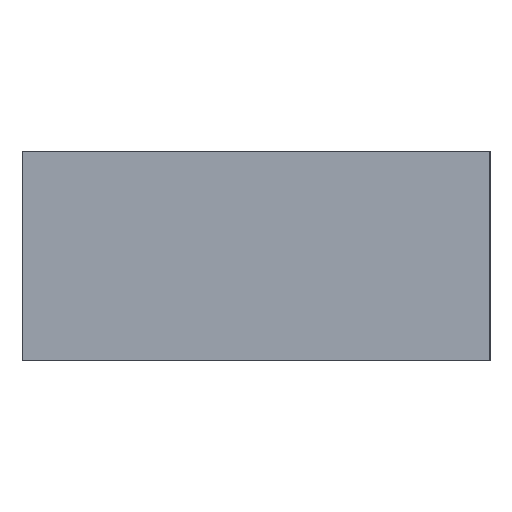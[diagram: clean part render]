
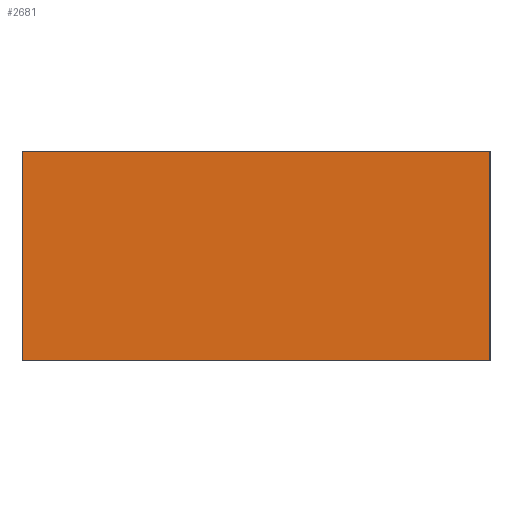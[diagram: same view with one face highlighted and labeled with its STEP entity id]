
A CAD part, left-side view. The second image highlights one B-rep face of the part: STEP entity #2681.
In plain terms, the highlighted planar face has unit normal (-1, 0, 0).
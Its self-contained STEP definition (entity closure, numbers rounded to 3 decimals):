
#22 = VERTEX_POINT('',#23);
#23 = CARTESIAN_POINT('',(-12.576,11.05,0.));
#32 = PLANE('',#33);
#33 = AXIS2_PLACEMENT_3D('',#34,#35,#36);
#34 = CARTESIAN_POINT('',(-12.576,11.05,0.));
#35 = DIRECTION('',(-0.,-1.,-0.));
#36 = DIRECTION('',(-1.,0.,0.));
#44 = PLANE('',#45);
#45 = AXIS2_PLACEMENT_3D('',#46,#47,#48);
#46 = CARTESIAN_POINT('',(22.859,-0.125,0.));
#47 = DIRECTION('',(-0.,-0.,1.));
#48 = DIRECTION('',(-1.,0.,0.));
#56 = EDGE_CURVE('',#22,#57,#59,.T.);
#57 = VERTEX_POINT('',#58);
#58 = CARTESIAN_POINT('',(-12.576,11.05,10.));
#59 = SURFACE_CURVE('',#60,(#64,#71),.PCURVE_S1.);
#60 = LINE('',#61,#62);
#61 = CARTESIAN_POINT('',(-12.576,11.05,0.));
#62 = VECTOR('',#63,1.);
#63 = DIRECTION('',(-0.,-0.,1.));
#64 = PCURVE('',#32,#65);
#65 = DEFINITIONAL_REPRESENTATION('',(#66),#70);
#66 = LINE('',#67,#68);
#67 = CARTESIAN_POINT('',(-0.,-0.));
#68 = VECTOR('',#69,1.);
#69 = DIRECTION('',(-0.,-1.));
#70 = ( GEOMETRIC_REPRESENTATION_CONTEXT(2) 
PARAMETRIC_REPRESENTATION_CONTEXT() REPRESENTATION_CONTEXT('2D SPACE',''
  ) );
#71 = PCURVE('',#72,#77);
#72 = PLANE('',#73);
#73 = AXIS2_PLACEMENT_3D('',#74,#75,#76);
#74 = CARTESIAN_POINT('',(-12.576,-11.3,0.));
#75 = DIRECTION('',(1.,-0.,-0.));
#76 = DIRECTION('',(0.,-1.,0.));
#77 = DEFINITIONAL_REPRESENTATION('',(#78),#82);
#78 = LINE('',#79,#80);
#79 = CARTESIAN_POINT('',(-22.35,0.));
#80 = VECTOR('',#81,1.);
#81 = DIRECTION('',(-0.,-1.));
#82 = ( GEOMETRIC_REPRESENTATION_CONTEXT(2) 
PARAMETRIC_REPRESENTATION_CONTEXT() REPRESENTATION_CONTEXT('2D SPACE',''
  ) );
#100 = PLANE('',#101);
#101 = AXIS2_PLACEMENT_3D('',#102,#103,#104);
#102 = CARTESIAN_POINT('',(22.859,-0.125,10.));
#103 = DIRECTION('',(-0.,-0.,1.));
#104 = DIRECTION('',(-1.,0.,0.));
#594 = VERTEX_POINT('',#595);
#595 = CARTESIAN_POINT('',(-12.576,-11.3,0.));
#609 = PLANE('',#610);
#610 = AXIS2_PLACEMENT_3D('',#611,#612,#613);
#611 = CARTESIAN_POINT('',(58.294,-11.3,0.));
#612 = DIRECTION('',(-0.,1.,-0.));
#613 = DIRECTION('',(1.,0.,0.));
#621 = EDGE_CURVE('',#594,#22,#622,.T.);
#622 = SURFACE_CURVE('',#623,(#627,#634),.PCURVE_S1.);
#623 = LINE('',#624,#625);
#624 = CARTESIAN_POINT('',(-12.576,-11.3,0.));
#625 = VECTOR('',#626,1.);
#626 = DIRECTION('',(-0.,1.,-0.));
#627 = PCURVE('',#44,#628);
#628 = DEFINITIONAL_REPRESENTATION('',(#629),#633);
#629 = LINE('',#630,#631);
#630 = CARTESIAN_POINT('',(35.435,11.175));
#631 = VECTOR('',#632,1.);
#632 = DIRECTION('',(-0.,-1.));
#633 = ( GEOMETRIC_REPRESENTATION_CONTEXT(2) 
PARAMETRIC_REPRESENTATION_CONTEXT() REPRESENTATION_CONTEXT('2D SPACE',''
  ) );
#634 = PCURVE('',#72,#635);
#635 = DEFINITIONAL_REPRESENTATION('',(#636),#640);
#636 = LINE('',#637,#638);
#637 = CARTESIAN_POINT('',(-0.,0.));
#638 = VECTOR('',#639,1.);
#639 = DIRECTION('',(-1.,-0.));
#640 = ( GEOMETRIC_REPRESENTATION_CONTEXT(2) 
PARAMETRIC_REPRESENTATION_CONTEXT() REPRESENTATION_CONTEXT('2D SPACE',''
  ) );
#2639 = VERTEX_POINT('',#2640);
#2640 = CARTESIAN_POINT('',(-12.576,-11.3,10.));
#2661 = EDGE_CURVE('',#2639,#57,#2662,.T.);
#2662 = SURFACE_CURVE('',#2663,(#2667,#2674),.PCURVE_S1.);
#2663 = LINE('',#2664,#2665);
#2664 = CARTESIAN_POINT('',(-12.576,-11.3,10.));
#2665 = VECTOR('',#2666,1.);
#2666 = DIRECTION('',(-0.,1.,-0.));
#2667 = PCURVE('',#100,#2668);
#2668 = DEFINITIONAL_REPRESENTATION('',(#2669),#2673);
#2669 = LINE('',#2670,#2671);
#2670 = CARTESIAN_POINT('',(35.435,11.175));
#2671 = VECTOR('',#2672,1.);
#2672 = DIRECTION('',(-0.,-1.));
#2673 = ( GEOMETRIC_REPRESENTATION_CONTEXT(2) 
PARAMETRIC_REPRESENTATION_CONTEXT() REPRESENTATION_CONTEXT('2D SPACE',''
  ) );
#2674 = PCURVE('',#72,#2675);
#2675 = DEFINITIONAL_REPRESENTATION('',(#2676),#2680);
#2676 = LINE('',#2677,#2678);
#2677 = CARTESIAN_POINT('',(-0.,-10.));
#2678 = VECTOR('',#2679,1.);
#2679 = DIRECTION('',(-1.,-0.));
#2680 = ( GEOMETRIC_REPRESENTATION_CONTEXT(2) 
PARAMETRIC_REPRESENTATION_CONTEXT() REPRESENTATION_CONTEXT('2D SPACE',''
  ) );
#2681 = ADVANCED_FACE('',(#2682),#72,.F.);
#2682 = FACE_BOUND('',#2683,.T.);
#2683 = EDGE_LOOP('',(#2684,#2705,#2706,#2707));
#2684 = ORIENTED_EDGE('',*,*,#2685,.T.);
#2685 = EDGE_CURVE('',#594,#2639,#2686,.T.);
#2686 = SURFACE_CURVE('',#2687,(#2691,#2698),.PCURVE_S1.);
#2687 = LINE('',#2688,#2689);
#2688 = CARTESIAN_POINT('',(-12.576,-11.3,0.));
#2689 = VECTOR('',#2690,1.);
#2690 = DIRECTION('',(-0.,-0.,1.));
#2691 = PCURVE('',#72,#2692);
#2692 = DEFINITIONAL_REPRESENTATION('',(#2693),#2697);
#2693 = LINE('',#2694,#2695);
#2694 = CARTESIAN_POINT('',(-0.,0.));
#2695 = VECTOR('',#2696,1.);
#2696 = DIRECTION('',(-0.,-1.));
#2697 = ( GEOMETRIC_REPRESENTATION_CONTEXT(2) 
PARAMETRIC_REPRESENTATION_CONTEXT() REPRESENTATION_CONTEXT('2D SPACE',''
  ) );
#2698 = PCURVE('',#609,#2699);
#2699 = DEFINITIONAL_REPRESENTATION('',(#2700),#2704);
#2700 = LINE('',#2701,#2702);
#2701 = CARTESIAN_POINT('',(-70.87,0.));
#2702 = VECTOR('',#2703,1.);
#2703 = DIRECTION('',(-0.,-1.));
#2704 = ( GEOMETRIC_REPRESENTATION_CONTEXT(2) 
PARAMETRIC_REPRESENTATION_CONTEXT() REPRESENTATION_CONTEXT('2D SPACE',''
  ) );
#2705 = ORIENTED_EDGE('',*,*,#2661,.T.);
#2706 = ORIENTED_EDGE('',*,*,#56,.F.);
#2707 = ORIENTED_EDGE('',*,*,#621,.F.);
